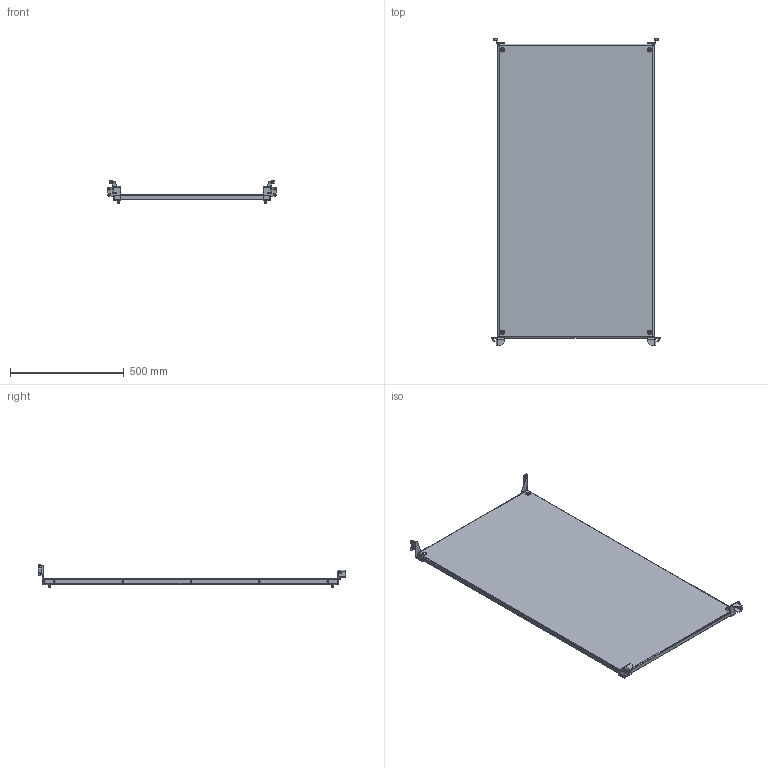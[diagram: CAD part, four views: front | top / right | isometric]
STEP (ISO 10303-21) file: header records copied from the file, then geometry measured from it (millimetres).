
FILE_DESCRIPTION(('STEP AP203'), '1');
FILE_NAME('3522.140.80 Ïàíåëü ìîíòàæíàÿ', '', ('UNSPECIFIED'), ('UNSPECIFIED'), 'C3D Converter', 'C3D Toolkit', '');
FILE_SCHEMA(('CONFIG_CONTROL_DESIGN'));
Length unit declared in the file: millimetre
Products named in the file (1): 3522.140.80
Bounding box: 738.8 x 1350.5 x 101.8 mm (x, y, z)
Volume: 2112047.3 mm3; surface area: 2105576.2 mm2
Topology: 12 solids, 12 shells, 812 faces, 2149 edges, 1399 vertices
Faces by surface type: plane 474, cylinder 200, bspline 80, cone 30, torus 18, sphere 10
Full cylindrical faces by diameter (mm): 3 x4, 4.8 x10, 4.917 x4, 6 x14, 6.4 x4, 7 x10, 7.6 x4, 9.5 x10, 10 x4, 18 x4, 20 x4
Entity records: 38174 total; most frequent: CARTESIAN_POINT 12011, ORIENTED_EDGE 4024, DIRECTION 3882, EDGE_CURVE 2012, VERTEX_POINT 1392, AXIS2_PLACEMENT_3D 1375, LINE 1132, VECTOR 1132
